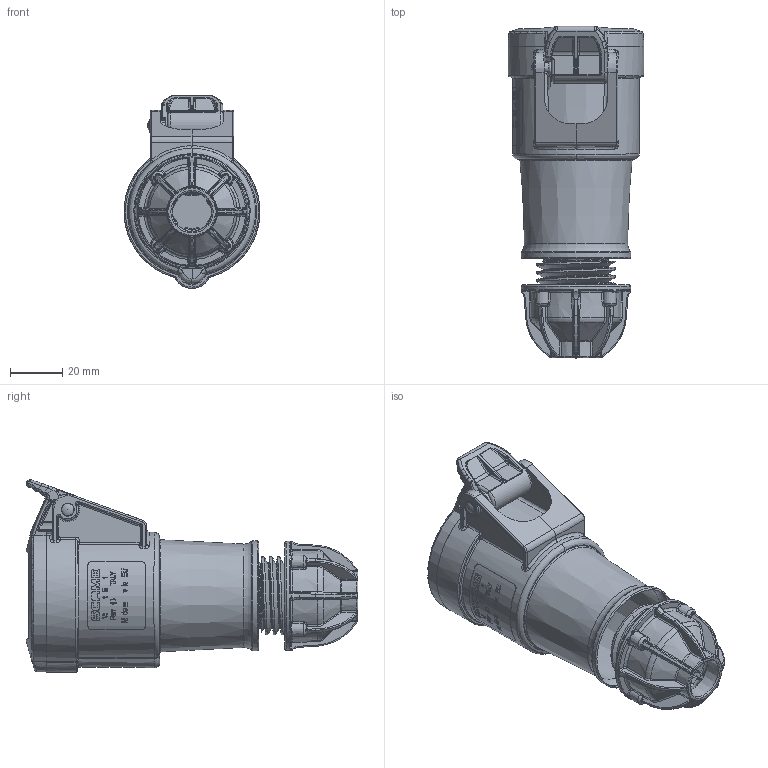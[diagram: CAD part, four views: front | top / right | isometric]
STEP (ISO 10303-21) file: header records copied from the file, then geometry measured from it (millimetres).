
FILE_DESCRIPTION(/* description */ (''),/* implementation_level */ '2;1');
FILE_NAME(/* name */ '4002620.stp',/* time_stamp */ '2017-05-24T08:14:46+02:00',/* author */ (''),/* organization */ (''),/* preprocessor_version */ 'ST-DEVELOPER v16',/* originating_system */ 'SIEMENS PLM Software NX 11.0',/* authorisation */ '');
FILE_SCHEMA (('AUTOMOTIVE_DESIGN { 1 0 10303 214 3 1 1 1 }'));
Length unit declared in the file: millimetre
Products named in the file (1): 4002620_LINKEDEXT_jt
Bounding box: 52.07 x 127.21 x 73.85 mm (x, y, z)
Surface area: 30055.6 mm2 (no closed solid volume)
Topology: 0 solids, 56 shells, 785 faces, 2527 edges, 1710 vertices
Faces by surface type: bspline 408, cylinder 142, torus 98, plane 68, cone 58, sphere 9, revolution 2
Full cylindrical faces by diameter (mm): 0.998 x2, 4 x1, 5 x1, 24.793 x5, 42 x1
Entity records: 53640 total; most frequent: CARTESIAN_POINT 29501, ORIENTED_EDGE 3983, DIRECTION 3033, EDGE_CURVE 2481, VERTEX_POINT 1689, AXIS2_PLACEMENT_3D 1360, B_SPLINE_CURVE_WITH_KNOTS 1181, CIRCLE 844
